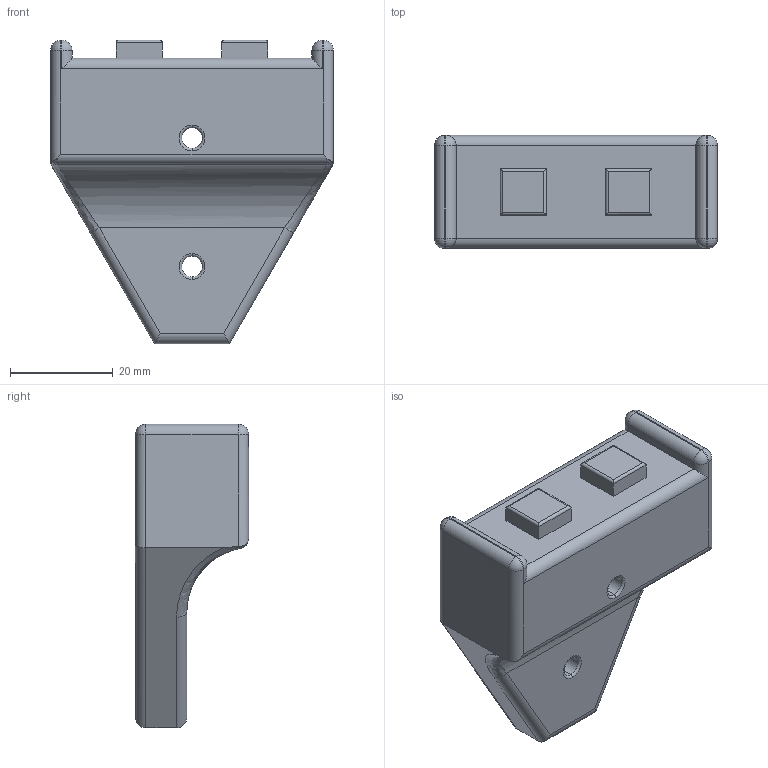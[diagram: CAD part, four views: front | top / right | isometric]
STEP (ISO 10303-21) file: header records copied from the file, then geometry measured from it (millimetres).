
FILE_DESCRIPTION (( 'STEP AP214' ), '1' );
FILE_NAME ('HSX-OD-2-LD.STEP', '2017-04-11T07:33:50', ( '' ), ( '' ), 'SwSTEP 2.0', 'SolidWorks 2017', '' );
FILE_SCHEMA (( 'AUTOMOTIVE_DESIGN' ));
Length unit declared in the file: millimetre
Products named in the file (1): HSX-OD-2-LD
Bounding box: 55 x 22 x 59 mm (x, y, z)
Volume: 39073.9 mm3; surface area: 8669.8 mm2
Topology: 1 solids, 1 shells, 81 faces, 185 edges, 100 vertices
Faces by surface type: cylinder 38, plane 23, sphere 10, torus 8, bspline 2
Entity records: 2271 total; most frequent: CARTESIAN_POINT 527, DIRECTION 361, ORIENTED_EDGE 354, EDGE_CURVE 177, AXIS2_PLACEMENT_3D 134, VERTEX_POINT 100, VECTOR 93, LINE 93
